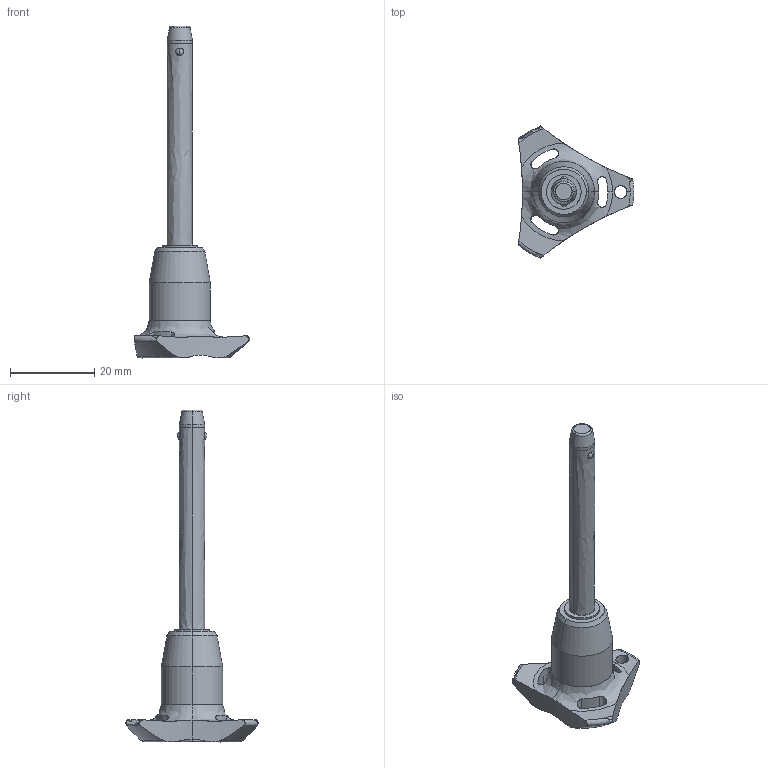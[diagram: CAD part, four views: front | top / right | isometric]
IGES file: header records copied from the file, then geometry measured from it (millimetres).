
Start section: SolidWorks IGES file using analytic representation for surfaces
Global section: file name: C:\Users\ianosborn\Desktop\33060_v2\33060.BK_v2_20240910_IGES\33060.W0829.igs; native system: SolidWorks 2019; preprocessor: SolidWorks 2019; author: IanOsborn; date: 240910.200759; units: millimetre
Bounding box: 27.4 x 31.31 x 78.7 mm (x, y, z)
Surface area: 3401.2 mm2 (no closed solid volume)
Topology: 0 solids, 0 shells, 69 faces, 1323 edges, 1304 vertices
Faces by surface type: revolution 52, bspline 17
